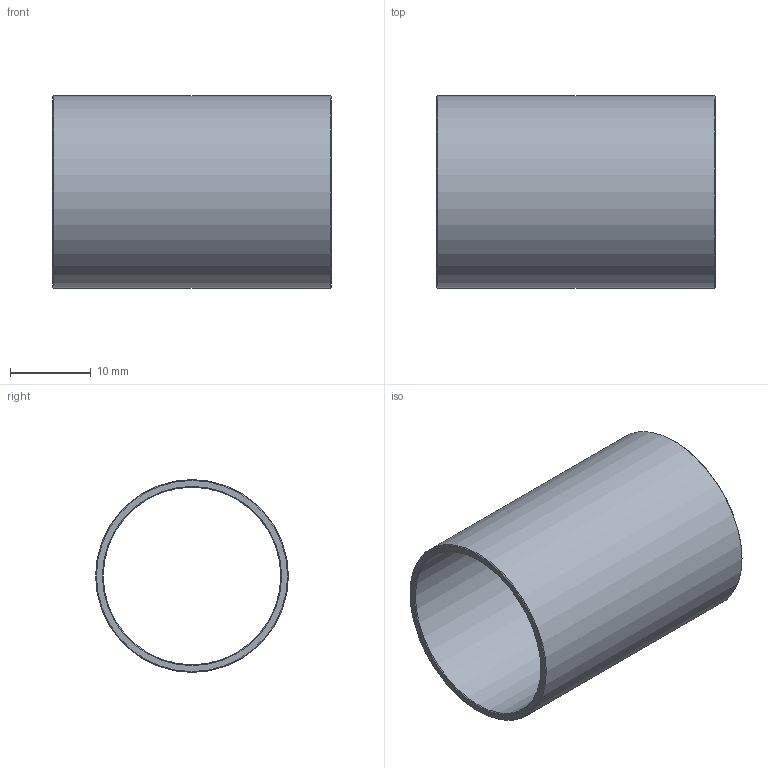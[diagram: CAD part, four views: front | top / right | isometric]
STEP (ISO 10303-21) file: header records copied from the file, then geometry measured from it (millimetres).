
FILE_DESCRIPTION((''),'2;1');
FILE_NAME('G:\SANHA-Ternat\Technik\Management\Bouwmaten + markeringen\z-maattekeningen 3D\5000\5270S\15270S22.stp','2018-02-14T10:47:00',('vdvijverd'),(''),'Autodesk Inventor 2009','Autodesk Inventor 2009','');
FILE_SCHEMA(('AUTOMOTIVE_DESIGN { 1 0 10303 214 1 1 1 1 }'));
Length unit declared in the file: millimetre
Products named in the file (1): 15270S22
Bounding box: 34.5 x 23.9 x 23.9 mm (x, y, z)
Volume: 2361.6 mm3; surface area: 5095 mm2
Topology: 1 solids, 1 shells, 8 faces, 14 edges, 8 vertices
Faces by surface type: cone 4, plane 2, cylinder 2
Full cylindrical faces by diameter (mm): 22 x1, 23.9 x1
Entity records: 194 total; most frequent: DIRECTION 34, CARTESIAN_POINT 25, AXIS2_PLACEMENT_3D 17, ORIENTED_EDGE 16, EDGE_LOOP 16, VERTEX_POINT 8, CIRCLE 8, EDGE_CURVE 8
